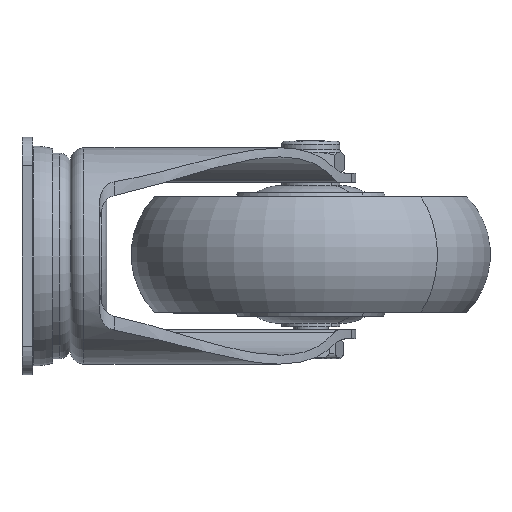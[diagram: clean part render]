
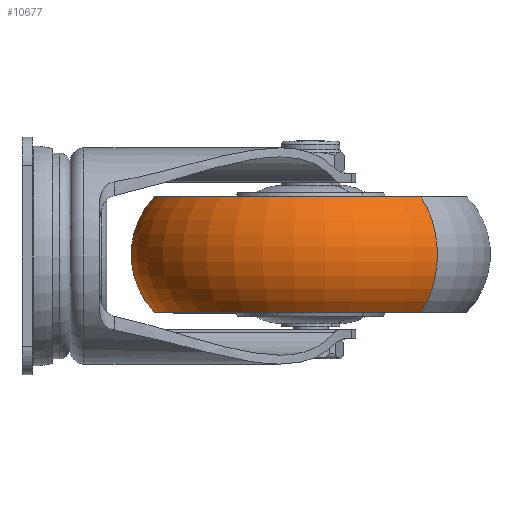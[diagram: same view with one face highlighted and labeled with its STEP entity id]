
A CAD part, left-side view. The second image highlights one B-rep face of the part: STEP entity #10677.
In plain terms, the highlighted toroidal (fillet/blend) face has major radius 27.058 mm and minor radius 22.942 mm.
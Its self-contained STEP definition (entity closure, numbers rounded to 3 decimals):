
#10677 = ADVANCED_FACE ( 'NONE', ( #17114 ), #17113, .T. ) ;
#10679 = EDGE_LOOP ( 'NONE', ( #10681, #10688, #10692, #10782 ) ) ;
#10681 = ORIENTED_EDGE ( 'NONE', *, *, #10684, .T. ) ;
#10684 = EDGE_CURVE ( 'NONE', #10686, #10687, #17112, .T. ) ;
#10686 = VERTEX_POINT ( 'NONE', #17103 ) ;
#10687 = VERTEX_POINT ( 'NONE', #17102 ) ;
#10688 = ORIENTED_EDGE ( 'NONE', *, *, #10689, .T. ) ;
#10689 = EDGE_CURVE ( 'NONE', #10687, #10690, #17101, .T. ) ;
#10690 = VERTEX_POINT ( 'NONE', #17096 ) ;
#10692 = ORIENTED_EDGE ( 'NONE', *, *, #10694, .F. ) ;
#10694 = EDGE_CURVE ( 'NONE', #10781, #10690, #17095, .T. ) ;
#10781 = VERTEX_POINT ( 'NONE', #17251 ) ;
#10782 = ORIENTED_EDGE ( 'NONE', *, *, #10784, .F. ) ;
#10784 = EDGE_CURVE ( 'NONE', #10686, #10781, #17250, .T. ) ;
#17095 = CIRCLE ( 'NONE', #17151, 43.5 ) ;
#17096 = CARTESIAN_POINT ( 'NONE',  ( -43.5, -16., 0. ) ) ;
#17097 = DIRECTION ( 'NONE',  ( 1., 0., 0. ) ) ;
#17098 = DIRECTION ( 'NONE',  ( 0., 0., 1. ) ) ;
#17099 = CARTESIAN_POINT ( 'NONE',  ( -27.058, 0., 0. ) ) ;
#17100 = AXIS2_PLACEMENT_3D ( 'NONE', #17099, #17098, #17097 ) ;
#17101 = CIRCLE ( 'NONE', #17100, 22.942 ) ;
#17102 = CARTESIAN_POINT ( 'NONE',  ( -43.5, 16., 0. ) ) ;
#17103 = CARTESIAN_POINT ( 'NONE',  ( 43.5, 16., 0. ) ) ;
#17104 = DIRECTION ( 'NONE',  ( 1., 0., 0. ) ) ;
#17105 = DIRECTION ( 'NONE',  ( 0., -1., 0. ) ) ;
#17106 = CARTESIAN_POINT ( 'NONE',  ( 0., 16., 0. ) ) ;
#17107 = AXIS2_PLACEMENT_3D ( 'NONE', #17106, #17105, #17104 ) ;
#17108 = DIRECTION ( 'NONE',  ( 1., 0., 0. ) ) ;
#17109 = DIRECTION ( 'NONE',  ( 0., -1., 0. ) ) ;
#17110 = CARTESIAN_POINT ( 'NONE',  ( 0., 0., 0. ) ) ;
#17111 = AXIS2_PLACEMENT_3D ( 'NONE', #17110, #17109, #17108 ) ;
#17112 = CIRCLE ( 'NONE', #17107, 43.5 ) ;
#17113 = TOROIDAL_SURFACE ( 'NONE', #17111, 27.058, 22.942 ) ;
#17114 = FACE_OUTER_BOUND ( 'NONE', #10679, .T. ) ;
#17148 = DIRECTION ( 'NONE',  ( 1., 0., 0. ) ) ;
#17149 = DIRECTION ( 'NONE',  ( 0., -1., 0. ) ) ;
#17150 = CARTESIAN_POINT ( 'NONE',  ( 0., -16., 0. ) ) ;
#17151 = AXIS2_PLACEMENT_3D ( 'NONE', #17150, #17149, #17148 ) ;
#17246 = DIRECTION ( 'NONE',  ( -1., 0., 0. ) ) ;
#17247 = DIRECTION ( 'NONE',  ( 0., 0., -1. ) ) ;
#17248 = CARTESIAN_POINT ( 'NONE',  ( 27.058, 0., 0. ) ) ;
#17249 = AXIS2_PLACEMENT_3D ( 'NONE', #17248, #17247, #17246 ) ;
#17250 = CIRCLE ( 'NONE', #17249, 22.942 ) ;
#17251 = CARTESIAN_POINT ( 'NONE',  ( 43.5, -16., 0. ) ) ;
